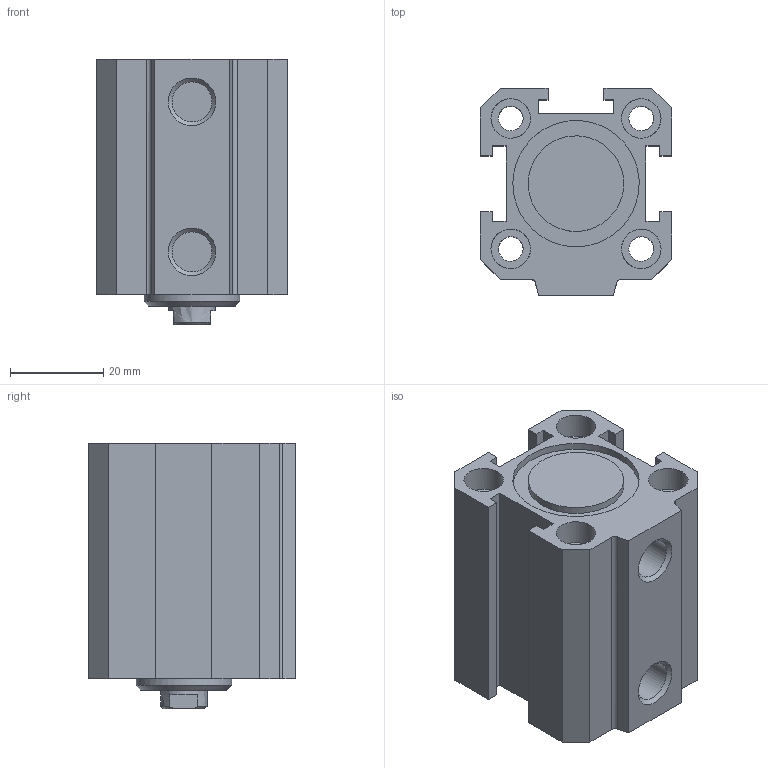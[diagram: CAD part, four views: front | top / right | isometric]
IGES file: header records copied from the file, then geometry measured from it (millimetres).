
Global section: file name: 1511_25_0015; native system: Autodesk Inventor 2014; preprocessor: unknown; author: A. Manieri; date: 20160824.111834; units: millimetre
Bounding box: 41 x 44.5 x 57 mm (x, y, z)
Volume: 61085.6 mm3; surface area: 25065.1 mm2
Topology: 2 solids, 2 shells, 93 faces, 241 edges, 170 vertices
Faces by surface type: bspline 93
